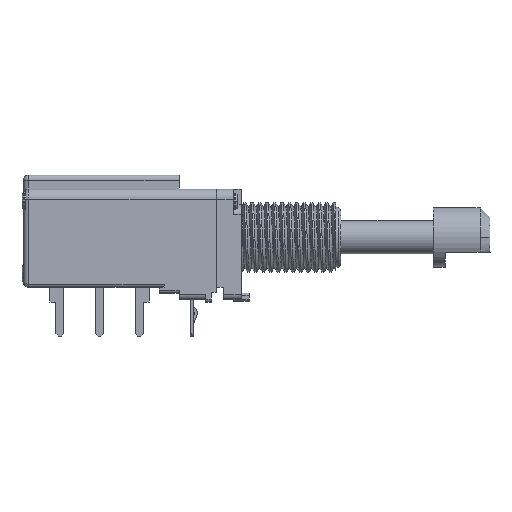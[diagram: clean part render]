
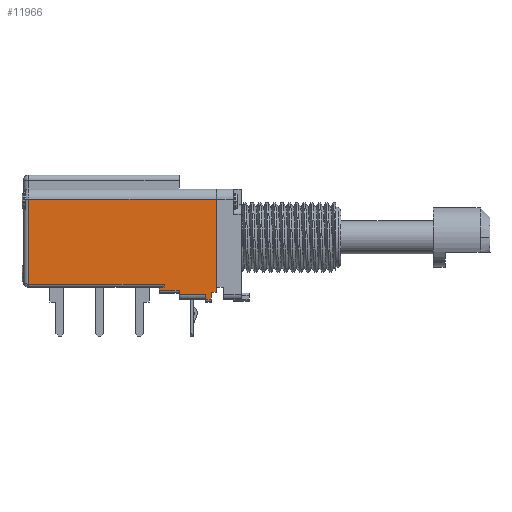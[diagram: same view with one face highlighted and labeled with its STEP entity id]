
A CAD part, left-side view. The second image highlights one B-rep face of the part: STEP entity #11966.
In plain terms, the highlighted planar face has unit normal (-1, 0, 0).
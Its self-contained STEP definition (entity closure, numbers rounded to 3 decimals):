
#219 = VERTEX_POINT ( 'NONE', #13632 ) ;
#312 = AXIS2_PLACEMENT_3D ( 'NONE', #11081, #3868, #12273 ) ;
#469 = EDGE_CURVE ( 'NONE', #6430, #4760, #15022, .T. ) ;
#471 = VERTEX_POINT ( 'NONE', #2349 ) ;
#583 = LINE ( 'NONE', #6475, #3364 ) ;
#1039 = LINE ( 'NONE', #11252, #13066 ) ;
#1262 = CARTESIAN_POINT ( 'NONE',  ( -4.75, 21.4, 1.8 ) ) ;
#1314 = VERTEX_POINT ( 'NONE', #7907 ) ;
#1475 = CARTESIAN_POINT ( 'NONE',  ( -4.75, 21.4, 10.35 ) ) ;
#1537 = CARTESIAN_POINT ( 'NONE',  ( -4.75, 7.75, 1.8 ) ) ;
#1753 = LINE ( 'NONE', #1262, #7771 ) ;
#1802 = LINE ( 'NONE', #11703, #7816 ) ;
#1812 = CARTESIAN_POINT ( 'NONE',  ( -4.75, 6.25, 1.2 ) ) ;
#1925 = ORIENTED_EDGE ( 'NONE', *, *, #15141, .T. ) ;
#2349 = CARTESIAN_POINT ( 'NONE',  ( -4.75, 3.6, 0.3 ) ) ;
#2378 = DIRECTION ( 'NONE',  ( 0., 0., -1. ) ) ;
#2387 = DIRECTION ( 'NONE',  ( 0., -1., 0. ) ) ;
#2550 = LINE ( 'NONE', #3190, #8566 ) ;
#2662 = ORIENTED_EDGE ( 'NONE', *, *, #2817, .T. ) ;
#2705 = VECTOR ( 'NONE', #2387, 1000. ) ;
#2745 = EDGE_CURVE ( 'NONE', #2833, #9079, #10613, .T. ) ;
#2817 = EDGE_CURVE ( 'NONE', #12592, #2833, #1039, .T. ) ;
#2833 = VERTEX_POINT ( 'NONE', #13789 ) ;
#2877 = DIRECTION ( 'NONE',  ( 0., 0., 1. ) ) ;
#3108 = VECTOR ( 'NONE', #5358, 1000. ) ;
#3190 = CARTESIAN_POINT ( 'NONE',  ( -4.75, 2.5, 0.75 ) ) ;
#3329 = ORIENTED_EDGE ( 'NONE', *, *, #12212, .F. ) ;
#3364 = VECTOR ( 'NONE', #2877, 1000. ) ;
#3516 = CARTESIAN_POINT ( 'NONE',  ( -4.75, 3., 0.75 ) ) ;
#3522 = CARTESIAN_POINT ( 'NONE',  ( -4.75, 6.25, 10.35 ) ) ;
#3588 = CARTESIAN_POINT ( 'NONE',  ( -4.75, 3., 0.3 ) ) ;
#3868 = DIRECTION ( 'NONE',  ( -1., 0., 0. ) ) ;
#4049 = DIRECTION ( 'NONE',  ( 0., 1., 0. ) ) ;
#4148 = CARTESIAN_POINT ( 'NONE',  ( -4.75, 3., 1. ) ) ;
#4166 = EDGE_CURVE ( 'NONE', #13183, #11632, #14436, .T. ) ;
#4266 = LINE ( 'NONE', #3522, #10665 ) ;
#4396 = DIRECTION ( 'NONE',  ( 0., -1., 0. ) ) ;
#4581 = EDGE_CURVE ( 'NONE', #13182, #8523, #12901, .T. ) ;
#4648 = ORIENTED_EDGE ( 'NONE', *, *, #14764, .T. ) ;
#4760 = VERTEX_POINT ( 'NONE', #1537 ) ;
#4775 = ORIENTED_EDGE ( 'NONE', *, *, #5080, .T. ) ;
#4840 = VECTOR ( 'NONE', #10783, 1000. ) ;
#4966 = DIRECTION ( 'NONE',  ( 0., -1., 0. ) ) ;
#5052 = EDGE_LOOP ( 'NONE', ( #2662, #8843, #14696, #4775, #6209, #3329, #11204, #7176, #4648, #12931, #6083, #6941, #15030, #1925 ) ) ;
#5080 = EDGE_CURVE ( 'NONE', #1314, #4760, #1802, .T. ) ;
#5358 = DIRECTION ( 'NONE',  ( 0., -1., 0. ) ) ;
#5440 = VECTOR ( 'NONE', #13122, 1000. ) ;
#5622 = CARTESIAN_POINT ( 'NONE',  ( -4.75, 8.25, 1.5 ) ) ;
#5680 = EDGE_CURVE ( 'NONE', #219, #471, #12489, .T. ) ;
#5739 = LINE ( 'NONE', #12882, #11723 ) ;
#6083 = ORIENTED_EDGE ( 'NONE', *, *, #5680, .T. ) ;
#6209 = ORIENTED_EDGE ( 'NONE', *, *, #469, .F. ) ;
#6271 = PLANE ( 'NONE',  #312 ) ;
#6335 = LINE ( 'NONE', #4148, #3108 ) ;
#6362 = CARTESIAN_POINT ( 'NONE',  ( -4.75, 8.25, 1.2 ) ) ;
#6430 = VERTEX_POINT ( 'NONE', #7724 ) ;
#6475 = CARTESIAN_POINT ( 'NONE',  ( -4.75, 8.25, 0.9 ) ) ;
#6941 = ORIENTED_EDGE ( 'NONE', *, *, #8680, .T. ) ;
#7176 = ORIENTED_EDGE ( 'NONE', *, *, #4581, .T. ) ;
#7597 = EDGE_CURVE ( 'NONE', #13182, #7799, #583, .T. ) ;
#7689 = CARTESIAN_POINT ( 'NONE',  ( -4.75, 2.5, 1. ) ) ;
#7724 = CARTESIAN_POINT ( 'NONE',  ( -4.75, 7.75, 1.5 ) ) ;
#7771 = VECTOR ( 'NONE', #10921, 1000. ) ;
#7799 = VERTEX_POINT ( 'NONE', #5622 ) ;
#7816 = VECTOR ( 'NONE', #12928, 1000. ) ;
#7907 = CARTESIAN_POINT ( 'NONE',  ( -4.75, 21.4, 1.8 ) ) ;
#8265 = DIRECTION ( 'NONE',  ( 0., 0., -1. ) ) ;
#8502 = VERTEX_POINT ( 'NONE', #14955 ) ;
#8523 = VERTEX_POINT ( 'NONE', #1812 ) ;
#8566 = VECTOR ( 'NONE', #4396, 1000. ) ;
#8680 = EDGE_CURVE ( 'NONE', #471, #11632, #5739, .T. ) ;
#8843 = ORIENTED_EDGE ( 'NONE', *, *, #2745, .T. ) ;
#8896 = DIRECTION ( 'NONE',  ( 0., 0., 1. ) ) ;
#9079 = VERTEX_POINT ( 'NONE', #1475 ) ;
#9123 = FACE_OUTER_BOUND ( 'NONE', #5052, .T. ) ;
#9320 = VECTOR ( 'NONE', #4966, 1000. ) ;
#9689 = EDGE_CURVE ( 'NONE', #9079, #1314, #1753, .T. ) ;
#10613 = LINE ( 'NONE', #13584, #13444 ) ;
#10665 = VECTOR ( 'NONE', #8265, 1000. ) ;
#10783 = DIRECTION ( 'NONE',  ( 0., 0., -1. ) ) ;
#10797 = CARTESIAN_POINT ( 'NONE',  ( -4.75, 8.25, 1.5 ) ) ;
#10921 = DIRECTION ( 'NONE',  ( 0., 0., -1. ) ) ;
#10951 = CARTESIAN_POINT ( 'NONE',  ( -4.75, 7.75, 1.2 ) ) ;
#11081 = CARTESIAN_POINT ( 'NONE',  ( -4.75, 2.5, 10.35 ) ) ;
#11204 = ORIENTED_EDGE ( 'NONE', *, *, #7597, .F. ) ;
#11252 = CARTESIAN_POINT ( 'NONE',  ( -4.75, 2.5, 10.35 ) ) ;
#11632 = VERTEX_POINT ( 'NONE', #3588 ) ;
#11703 = CARTESIAN_POINT ( 'NONE',  ( -4.75, 21.9, 1.8 ) ) ;
#11723 = VECTOR ( 'NONE', #14109, 1000. ) ;
#11966 = ADVANCED_FACE ( 'NONE', ( #9123 ), #6271, .T. ) ;
#12099 = VECTOR ( 'NONE', #2378, 1000. ) ;
#12212 = EDGE_CURVE ( 'NONE', #7799, #6430, #15519, .T. ) ;
#12273 = DIRECTION ( 'NONE',  ( 0., -1., 0. ) ) ;
#12489 = LINE ( 'NONE', #15574, #12099 ) ;
#12592 = VERTEX_POINT ( 'NONE', #7689 ) ;
#12882 = CARTESIAN_POINT ( 'NONE',  ( -4.75, 2.5, 0.3 ) ) ;
#12901 = LINE ( 'NONE', #10951, #9320 ) ;
#12928 = DIRECTION ( 'NONE',  ( 0., -1., 0. ) ) ;
#12931 = ORIENTED_EDGE ( 'NONE', *, *, #15355, .T. ) ;
#13066 = VECTOR ( 'NONE', #8896, 1000. ) ;
#13122 = DIRECTION ( 'NONE',  ( 0., 0., 1. ) ) ;
#13182 = VERTEX_POINT ( 'NONE', #6362 ) ;
#13183 = VERTEX_POINT ( 'NONE', #14771 ) ;
#13444 = VECTOR ( 'NONE', #4049, 1000. ) ;
#13584 = CARTESIAN_POINT ( 'NONE',  ( -4.75, 21.9, 10.35 ) ) ;
#13632 = CARTESIAN_POINT ( 'NONE',  ( -4.75, 3.6, 0.75 ) ) ;
#13789 = CARTESIAN_POINT ( 'NONE',  ( -4.75, 2.5, 10.35 ) ) ;
#14109 = DIRECTION ( 'NONE',  ( 0., -1., 0. ) ) ;
#14436 = LINE ( 'NONE', #3516, #4840 ) ;
#14696 = ORIENTED_EDGE ( 'NONE', *, *, #9689, .T. ) ;
#14764 = EDGE_CURVE ( 'NONE', #8523, #8502, #4266, .T. ) ;
#14771 = CARTESIAN_POINT ( 'NONE',  ( -4.75, 3., 1. ) ) ;
#14955 = CARTESIAN_POINT ( 'NONE',  ( -4.75, 6.25, 0.75 ) ) ;
#15022 = LINE ( 'NONE', #15542, #5440 ) ;
#15030 = ORIENTED_EDGE ( 'NONE', *, *, #4166, .F. ) ;
#15141 = EDGE_CURVE ( 'NONE', #13183, #12592, #6335, .T. ) ;
#15355 = EDGE_CURVE ( 'NONE', #8502, #219, #2550, .T. ) ;
#15519 = LINE ( 'NONE', #10797, #2705 ) ;
#15542 = CARTESIAN_POINT ( 'NONE',  ( -4.75, 7.75, 11.35 ) ) ;
#15574 = CARTESIAN_POINT ( 'NONE',  ( -4.75, 3.6, 10.35 ) ) ;
